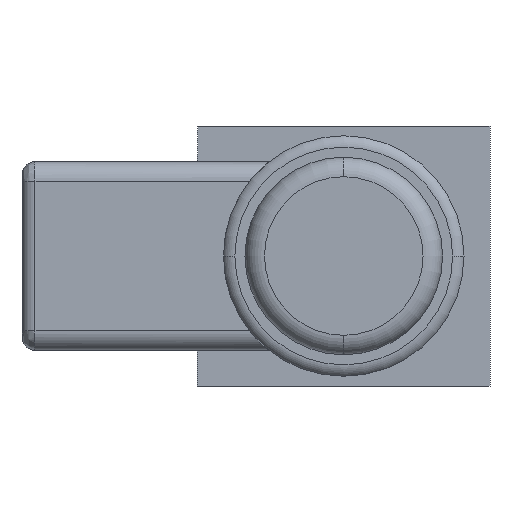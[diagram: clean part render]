
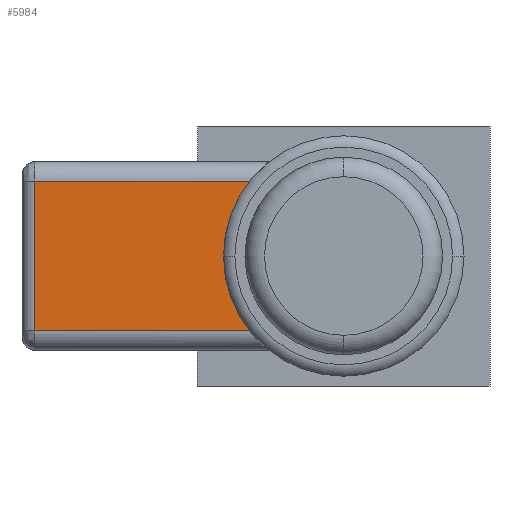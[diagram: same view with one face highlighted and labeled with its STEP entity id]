
A CAD part, left-side view. The second image highlights one B-rep face of the part: STEP entity #5984.
In plain terms, the highlighted planar face has unit normal (-1, 0, 0).
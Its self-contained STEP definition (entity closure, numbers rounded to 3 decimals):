
#2508=CARTESIAN_POINT('',(-40.5,36.991,-31.5));
#2510=CARTESIAN_POINT('',(-40.5,22.5,-20.));
#2511=DIRECTION('',(-1.,0.,0.));
#2512=DIRECTION('',(0.,1.,0.));
#2513=AXIS2_PLACEMENT_3D('',#2510,#2511,#2512);
#2657=CARTESIAN_POINT('',(-40.5,22.5,-20.));
#2658=DIRECTION('',(-1.,0.,0.));
#2659=DIRECTION('',(0.,0.783,0.622));
#2660=AXIS2_PLACEMENT_3D('',#2657,#2658,#2659);
#2750=DIRECTION('',(0.,0.,1.));
#2751=VECTOR('',#2750,23.);
#2752=CARTESIAN_POINT('',(-40.5,70.,-31.5));
#2753=LINE('',#2752,#2751);
#2754=DIRECTION('',(0.,1.,0.));
#2755=VECTOR('',#2754,33.009);
#2756=CARTESIAN_POINT('',(-40.5,36.991,-31.5));
#2757=LINE('',#2756,#2755);
#2763=DIRECTION('',(0.,1.,0.));
#2764=VECTOR('',#2763,33.009);
#2765=CARTESIAN_POINT('',(-40.5,36.991,-8.5));
#2766=LINE('',#2765,#2764);
#3246=VERTEX_POINT('',#2508);
#3247=CARTESIAN_POINT('',(-40.5,41.,-20.));
#3248=VERTEX_POINT('',#3247);
#3253=CARTESIAN_POINT('',(-40.5,36.991,-8.5));
#3254=VERTEX_POINT('',#3253);
#3274=CARTESIAN_POINT('',(-40.5,70.,-31.5));
#3276=VERTEX_POINT('',#3274);
#3279=CARTESIAN_POINT('',(-40.5,70.,-8.5));
#3280=VERTEX_POINT('',#3279);
#5970=CARTESIAN_POINT('',(-40.5,52.,-31.5));
#5971=DIRECTION('',(-1.,0.,0.));
#5972=DIRECTION('',(0.,0.,1.));
#5973=AXIS2_PLACEMENT_3D('',#5970,#5971,#5972);
#5974=PLANE('',#5973);
#5975=ORIENTED_EDGE('',*,*,#5808,.T.);
#5977=ORIENTED_EDGE('',*,*,#5976,.F.);
#5978=ORIENTED_EDGE('',*,*,#5952,.T.);
#5979=ORIENTED_EDGE('',*,*,#5703,.T.);
#5981=ORIENTED_EDGE('',*,*,#5980,.T.);
#5982=EDGE_LOOP('',(#5975,#5977,#5978,#5979,#5981));
#5983=FACE_OUTER_BOUND('',#5982,.F.);
#2514=CIRCLE('',#2513,18.5);
#2661=CIRCLE('',#2660,18.5);
#5703=EDGE_CURVE('',#3248,#3246,#2514,.T.);
#5808=EDGE_CURVE('',#3276,#3280,#2753,.T.);
#5952=EDGE_CURVE('',#3254,#3248,#2661,.T.);
#5976=EDGE_CURVE('',#3254,#3280,#2766,.T.);
#5980=EDGE_CURVE('',#3246,#3276,#2757,.T.);
#5984=ADVANCED_FACE('',(#5983),#5974,.T.);
